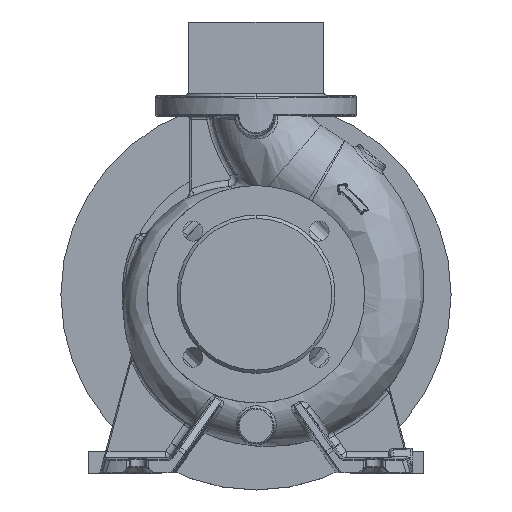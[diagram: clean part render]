
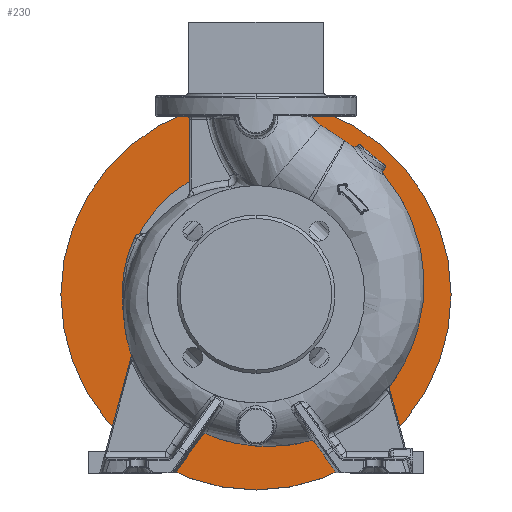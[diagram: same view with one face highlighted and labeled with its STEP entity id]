
A CAD part, top view. The second image highlights one B-rep face of the part: STEP entity #230.
In plain terms, the highlighted planar face has unit normal (0, 0, 1).
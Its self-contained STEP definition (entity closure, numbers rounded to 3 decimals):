
#230 = ADVANCED_FACE ( 'NONE', ( #34400, #55125 ), #6312, .F. ) ;
#4746 = CARTESIAN_POINT ( 'NONE',  ( 105., 0., -221.3 ) ) ;
#6312 = PLANE ( 'NONE',  #33725 ) ;
#7131 = CARTESIAN_POINT ( 'NONE',  ( 0., 0., -221.3 ) ) ;
#8031 = CIRCLE ( 'NONE', #20477, 175. ) ;
#8979 = ORIENTED_EDGE ( 'NONE', *, *, #36980, .T. ) ;
#9731 = EDGE_LOOP ( 'NONE', ( #8979, #18443 ) ) ;
#10413 = CARTESIAN_POINT ( 'NONE',  ( 175., 0., -221.3 ) ) ;
#11119 = CARTESIAN_POINT ( 'NONE',  ( 0., 105., -221.3 ) ) ;
#11501 = DIRECTION ( 'NONE',  ( 0., 0., -1. ) ) ;
#11732 = AXIS2_PLACEMENT_3D ( 'NONE', #38202, #34026, #15178 ) ;
#15178 = DIRECTION ( 'NONE',  ( 1., 0., 0. ) ) ;
#16906 = EDGE_LOOP ( 'NONE', ( #29585, #47760 ) ) ;
#18443 = ORIENTED_EDGE ( 'NONE', *, *, #50243, .T. ) ;
#18645 = CIRCLE ( 'NONE', #38968, 105. ) ;
#20477 = AXIS2_PLACEMENT_3D ( 'NONE', #42871, #52241, #24879 ) ;
#20617 = CARTESIAN_POINT ( 'NONE',  ( 0., 0., -221.3 ) ) ;
#23636 = VERTEX_POINT ( 'NONE', #30202 ) ;
#24879 = DIRECTION ( 'NONE',  ( 1., 0., 0. ) ) ;
#24935 = DIRECTION ( 'NONE',  ( 1., 0., 0. ) ) ;
#25227 = DIRECTION ( 'NONE',  ( 0., 0., 1. ) ) ;
#27415 = CARTESIAN_POINT ( 'NONE',  ( -105., 0., -221.3 ) ) ;
#29585 = ORIENTED_EDGE ( 'NONE', *, *, #32538, .F. ) ;
#30202 = CARTESIAN_POINT ( 'NONE',  ( -175., 0., -221.3 ) ) ;
#32538 = EDGE_CURVE ( 'NONE', #38497, #41080, #46726, .T. ) ;
#33725 = AXIS2_PLACEMENT_3D ( 'NONE', #11119, #11501, #38313 ) ;
#34026 = DIRECTION ( 'NONE',  ( 0., 0., 1. ) ) ;
#34400 = FACE_BOUND ( 'NONE', #16906, .T. ) ;
#36980 = EDGE_CURVE ( 'NONE', #40164, #23636, #8031, .T. ) ;
#38202 = CARTESIAN_POINT ( 'NONE',  ( 0., 0., -221.3 ) ) ;
#38313 = DIRECTION ( 'NONE',  ( -1., 0., 0. ) ) ;
#38497 = VERTEX_POINT ( 'NONE', #4746 ) ;
#38968 = AXIS2_PLACEMENT_3D ( 'NONE', #20617, #25227, #57334 ) ;
#39278 = EDGE_CURVE ( 'NONE', #41080, #38497, #18645, .T. ) ;
#40164 = VERTEX_POINT ( 'NONE', #10413 ) ;
#41080 = VERTEX_POINT ( 'NONE', #27415 ) ;
#42871 = CARTESIAN_POINT ( 'NONE',  ( 0., 0., -221.3 ) ) ;
#46726 = CIRCLE ( 'NONE', #59199, 105. ) ;
#47760 = ORIENTED_EDGE ( 'NONE', *, *, #39278, .F. ) ;
#50243 = EDGE_CURVE ( 'NONE', #23636, #40164, #55336, .T. ) ;
#52241 = DIRECTION ( 'NONE',  ( 0., 0., 1. ) ) ;
#52285 = DIRECTION ( 'NONE',  ( 0., 0., 1. ) ) ;
#55125 = FACE_OUTER_BOUND ( 'NONE', #9731, .T. ) ;
#55336 = CIRCLE ( 'NONE', #11732, 175. ) ;
#57334 = DIRECTION ( 'NONE',  ( 1., 0., 0. ) ) ;
#59199 = AXIS2_PLACEMENT_3D ( 'NONE', #7131, #52285, #24935 ) ;
